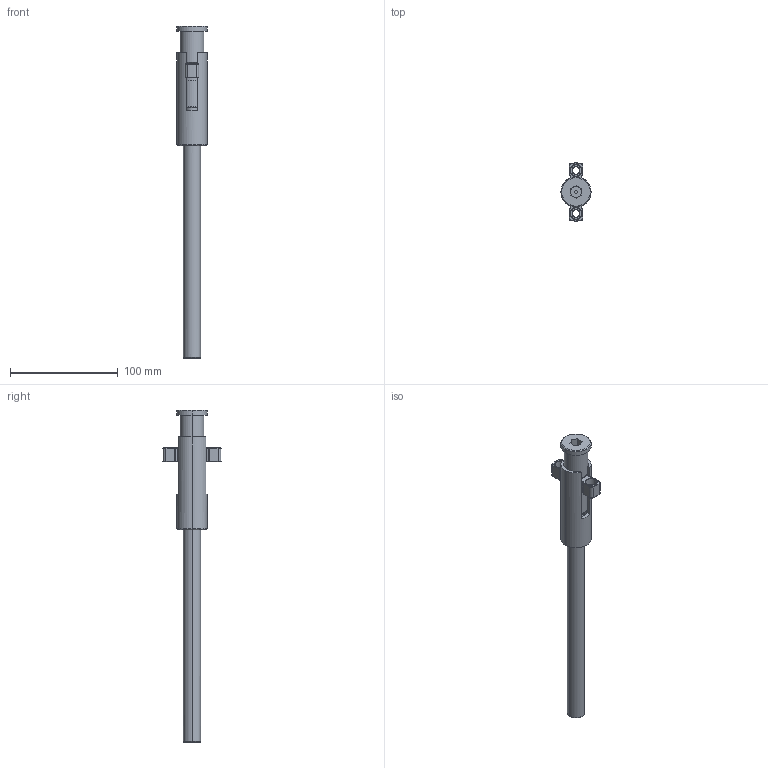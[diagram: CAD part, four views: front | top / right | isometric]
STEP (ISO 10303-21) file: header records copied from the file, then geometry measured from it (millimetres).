
FILE_DESCRIPTION (( 'STEP AP203' ), '1' );
FILE_NAME ('DKL2812.STEP', '2013-08-26T10:33:41', ( '' ), ( '' ), 'SwSTEP 2.0', 'SolidWorks 2013', '' );
FILE_SCHEMA (( 'CONFIG_CONTROL_DESIGN' ));
Length unit declared in the file: millimetre
Products named in the file (9): DKL2051; DKL2021; DKL2041; DKL2082; DKL2071; DKL2011; DKL2812; DKL2031; DKL2062
Assembly tree (11 placements, depth 2):
  DKL2812
    DKL2031
    DKL2062  x4
    DKL2051
    DKL2021
    DKL2041
    DKL2082
    DKL2071
    DKL2011
Bounding box: 28 x 53.93 x 308 mm (x, y, z)
Volume: 92270.2 mm3; surface area: 41152 mm2
Topology: 11 solids, 11 shells, 516 faces, 1218 edges, 736 vertices
Faces by surface type: plane 164, cone 141, cylinder 139, torus 54, bspline 18
Entity records: 17900 total; most frequent: CARTESIAN_POINT 6801, DIRECTION 2198, ORIENTED_EDGE 2052, EDGE_CURVE 1026, AXIS2_PLACEMENT_3D 883, VERTEX_POINT 625, EDGE_LOOP 483, CIRCLE 449
